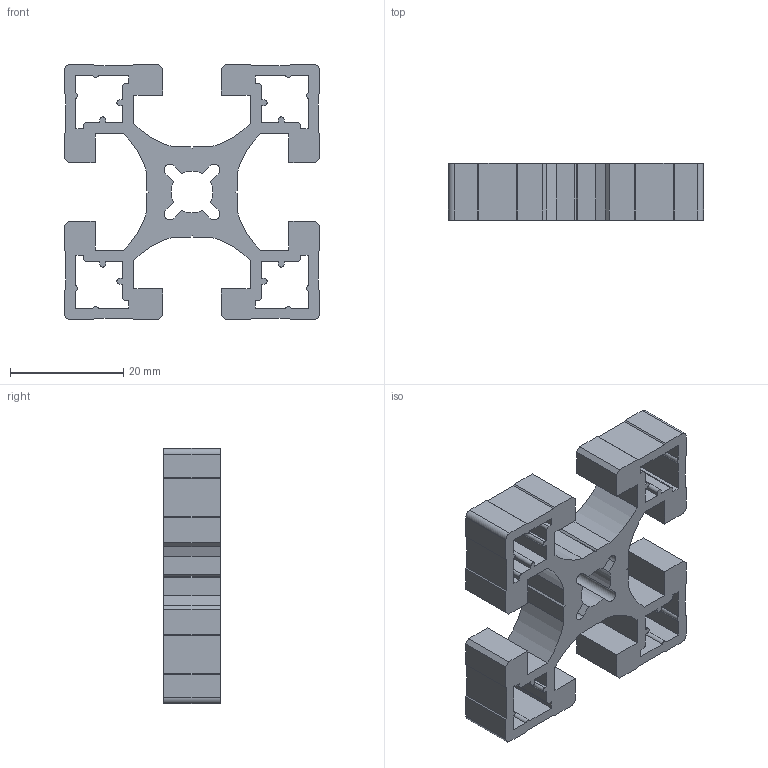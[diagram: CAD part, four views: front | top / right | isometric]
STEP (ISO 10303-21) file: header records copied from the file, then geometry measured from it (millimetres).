
FILE_DESCRIPTION((''),'2;1');
FILE_NAME('PR045045P','2002-12-27T',('Lipro doo'),('Lipro d.o.o.'),'PRO/ENGINEER BY PARAMETRIC TECHNOLOGY CORPORATION, 2001150','PRO/ENGINEER BY PARAMETRIC TECHNOLOGY CORPORATION, 2001150','');
FILE_SCHEMA(('CONFIG_CONTROL_DESIGN'));
Length unit declared in the file: millimetre
Products named in the file (1): PR045045P
Bounding box: 45 x 10 x 45 mm (x, y, z)
Volume: 7881.3 mm3; surface area: 7150.2 mm2
Topology: 1 solids, 1 shells, 206 faces, 612 edges, 408 vertices
Faces by surface type: plane 162, cylinder 44
Entity records: 6902 total; most frequent: CARTESIAN_POINT 1226, ORIENTED_EDGE 1224, DIRECTION 1112, EDGE_CURVE 612, VECTOR 524, LINE 524, VERTEX_POINT 408, AXIS2_PLACEMENT_3D 294
